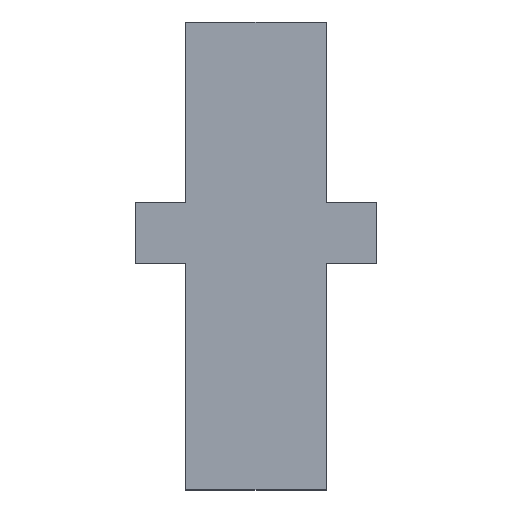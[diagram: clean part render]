
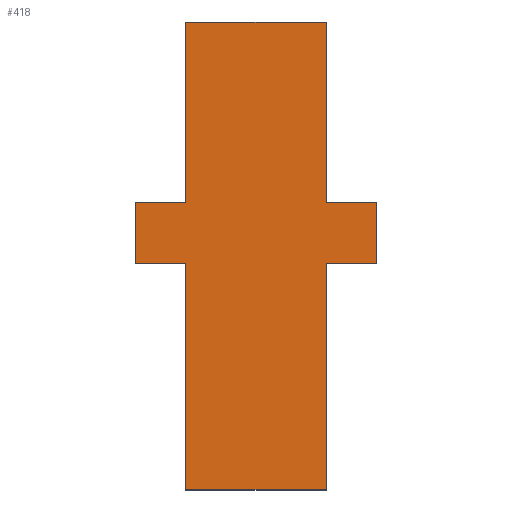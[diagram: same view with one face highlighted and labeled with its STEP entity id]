
A CAD part, top view. The second image highlights one B-rep face of the part: STEP entity #418.
In plain terms, the highlighted planar face has unit normal (0, 0, 1).
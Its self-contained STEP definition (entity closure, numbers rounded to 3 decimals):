
#42=CARTESIAN_POINT('',(-25.2,35.2,500.657));
#43=VERTEX_POINT('',#42);
#50=CARTESIAN_POINT('',(-94.8,35.2,500.657));
#51=VERTEX_POINT('',#50);
#52=CARTESIAN_POINT('',(-94.8,35.2,500.657));
#53=DIRECTION('',(1.,0.,-0.));
#54=VECTOR('',#53,69.6);
#55=LINE('',#52,#54);
#56=EDGE_CURVE('',#51,#43,#55,.T.);
#80=CARTESIAN_POINT('',(-25.2,148.,500.657));
#81=VERTEX_POINT('',#80);
#88=CARTESIAN_POINT('',(-25.2,35.2,500.657));
#89=DIRECTION('',(0.,1.,0.));
#90=VECTOR('',#89,112.8);
#91=LINE('',#88,#90);
#92=EDGE_CURVE('',#43,#81,#91,.T.);
#111=CARTESIAN_POINT('',(-0.2,148.,500.657));
#112=VERTEX_POINT('',#111);
#119=CARTESIAN_POINT('',(-0.2,148.,500.657));
#120=DIRECTION('',(-1.,0.,0.));
#121=VECTOR('',#120,25.);
#122=LINE('',#119,#121);
#123=EDGE_CURVE('',#112,#81,#122,.T.);
#142=CARTESIAN_POINT('',(-0.2,178.,500.657));
#143=VERTEX_POINT('',#142);
#150=CARTESIAN_POINT('',(-0.2,178.,500.657));
#151=DIRECTION('',(0.,-1.,0.));
#152=VECTOR('',#151,30.);
#153=LINE('',#150,#152);
#154=EDGE_CURVE('',#143,#112,#153,.T.);
#173=CARTESIAN_POINT('',(-25.2,178.,500.657));
#174=VERTEX_POINT('',#173);
#181=CARTESIAN_POINT('',(-25.2,178.,500.657));
#182=DIRECTION('',(1.,0.,-0.));
#183=VECTOR('',#182,25.);
#184=LINE('',#181,#183);
#185=EDGE_CURVE('',#174,#143,#184,.T.);
#204=CARTESIAN_POINT('',(-25.2,267.8,500.657));
#205=VERTEX_POINT('',#204);
#212=CARTESIAN_POINT('',(-25.2,178.,500.657));
#213=DIRECTION('',(0.,1.,0.));
#214=VECTOR('',#213,89.8);
#215=LINE('',#212,#214);
#216=EDGE_CURVE('',#174,#205,#215,.T.);
#235=CARTESIAN_POINT('',(-94.8,267.8,500.657));
#236=VERTEX_POINT('',#235);
#243=CARTESIAN_POINT('',(-25.2,267.8,500.657));
#244=DIRECTION('',(-1.,0.,0.));
#245=VECTOR('',#244,69.6);
#246=LINE('',#243,#245);
#247=EDGE_CURVE('',#205,#236,#246,.T.);
#266=CARTESIAN_POINT('',(-94.8,178.,500.657));
#267=VERTEX_POINT('',#266);
#274=CARTESIAN_POINT('',(-94.8,267.8,500.657));
#275=DIRECTION('',(0.,-1.,0.));
#276=VECTOR('',#275,89.8);
#277=LINE('',#274,#276);
#278=EDGE_CURVE('',#236,#267,#277,.T.);
#297=CARTESIAN_POINT('',(-119.8,178.,500.657));
#298=VERTEX_POINT('',#297);
#305=CARTESIAN_POINT('',(-119.8,178.,500.657));
#306=DIRECTION('',(1.,0.,-0.));
#307=VECTOR('',#306,25.);
#308=LINE('',#305,#307);
#309=EDGE_CURVE('',#298,#267,#308,.T.);
#328=CARTESIAN_POINT('',(-119.8,148.,500.657));
#329=VERTEX_POINT('',#328);
#336=CARTESIAN_POINT('',(-119.8,148.,500.657));
#337=DIRECTION('',(0.,1.,0.));
#338=VECTOR('',#337,30.);
#339=LINE('',#336,#338);
#340=EDGE_CURVE('',#329,#298,#339,.T.);
#359=CARTESIAN_POINT('',(-94.8,148.,500.657));
#360=VERTEX_POINT('',#359);
#367=CARTESIAN_POINT('',(-94.8,148.,500.657));
#368=DIRECTION('',(-1.,0.,0.));
#369=VECTOR('',#368,25.);
#370=LINE('',#367,#369);
#371=EDGE_CURVE('',#360,#329,#370,.T.);
#389=CARTESIAN_POINT('',(-94.8,148.,500.657));
#390=DIRECTION('',(0.,-1.,0.));
#391=VECTOR('',#390,112.8);
#392=LINE('',#389,#391);
#393=EDGE_CURVE('',#360,#51,#392,.T.);
#399=CARTESIAN_POINT('',(0.,0.,500.657));
#400=DIRECTION('',(0.,0.,1.));
#401=DIRECTION('',(1.,0.,0.));
#402=AXIS2_PLACEMENT_3D('',#399,#400,#401);
#403=PLANE('',#402);
#404=ORIENTED_EDGE('',*,*,#56,.T.);
#405=ORIENTED_EDGE('',*,*,#92,.T.);
#406=ORIENTED_EDGE('',*,*,#123,.F.);
#407=ORIENTED_EDGE('',*,*,#154,.F.);
#408=ORIENTED_EDGE('',*,*,#185,.F.);
#409=ORIENTED_EDGE('',*,*,#216,.T.);
#410=ORIENTED_EDGE('',*,*,#247,.T.);
#411=ORIENTED_EDGE('',*,*,#278,.T.);
#412=ORIENTED_EDGE('',*,*,#309,.F.);
#413=ORIENTED_EDGE('',*,*,#340,.F.);
#414=ORIENTED_EDGE('',*,*,#371,.F.);
#415=ORIENTED_EDGE('',*,*,#393,.T.);
#416=EDGE_LOOP('',(#404,#405,#406,#407,#408,#409,#410,#411,#412,#413,#414,#415));
#417=FACE_BOUND('',#416,.T.);
#418=ADVANCED_FACE('',(#417),#403,.T.);
